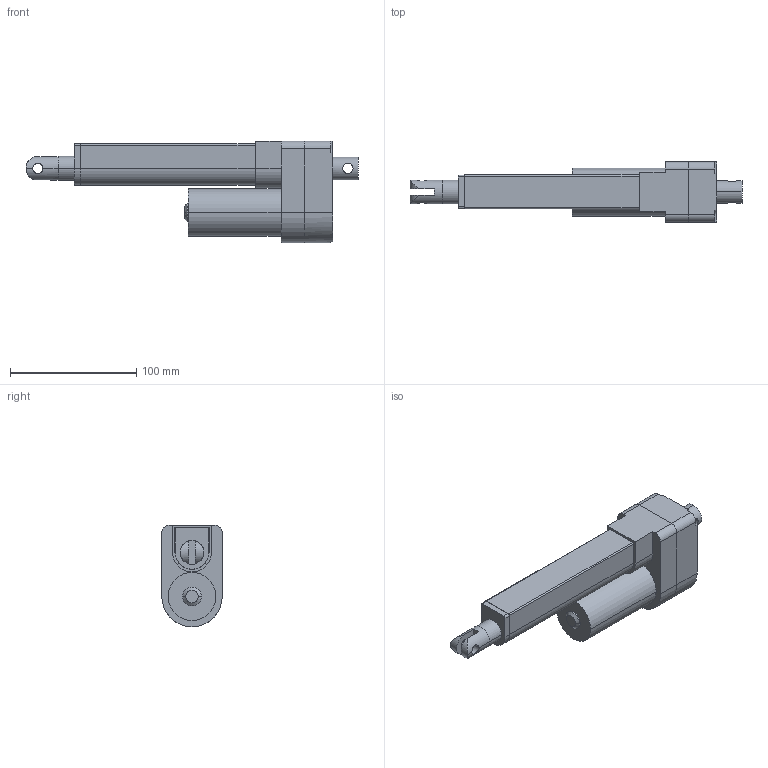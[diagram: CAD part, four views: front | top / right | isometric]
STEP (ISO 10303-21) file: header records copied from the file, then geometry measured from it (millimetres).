
FILE_DESCRIPTION((''),'2;1');
FILE_NAME('LAS3-S100_ASM','2007-07-11T',('amyliao'),(''),'PRO/ENGINEER BY PARAMETRIC TECHNOLOGY CORPORATION, 2003210','PRO/ENGINEER BY PARAMETRIC TECHNOLOGY CORPORATION, 2003210','');
FILE_SCHEMA(('CONFIG_CONTROL_DESIGN'));
Length unit declared in the file: millimetre
Products named in the file (8): 001; 002; LAS-MOTOR; OUT-TUB; 1; LAS-IN-TUB; LAS-IN-PLUG; LAS3-S100_ASM
Assembly tree (7 placements, depth 2):
  LAS3-S100_ASM
    001
    002
    LAS-MOTOR
    OUT-TUB
    1
    LAS-IN-TUB
    LAS-IN-PLUG
Bounding box: 263.35 x 48 x 80.5 mm (x, y, z)
Volume: 217390.8 mm3; surface area: 96947.1 mm2
Topology: 7 solids, 7 shells, 157 faces, 408 edges, 270 vertices
Faces by surface type: cylinder 79, plane 76, cone 2
Entity records: 5300 total; most frequent: CARTESIAN_POINT 1062, DIRECTION 894, ORIENTED_EDGE 816, EDGE_CURVE 408, AXIS2_PLACEMENT_3D 326, VERTEX_POINT 270, VECTOR 242, LINE 242
